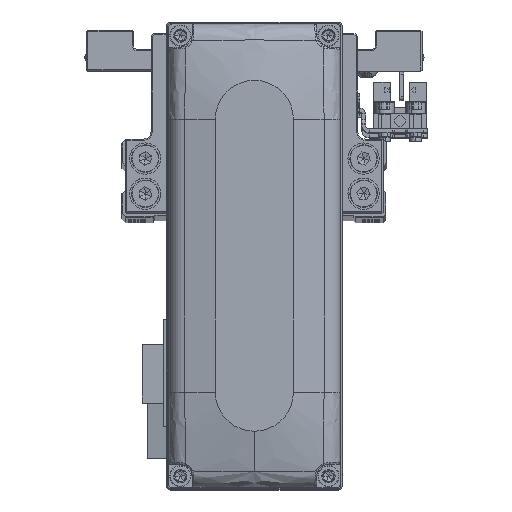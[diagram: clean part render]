
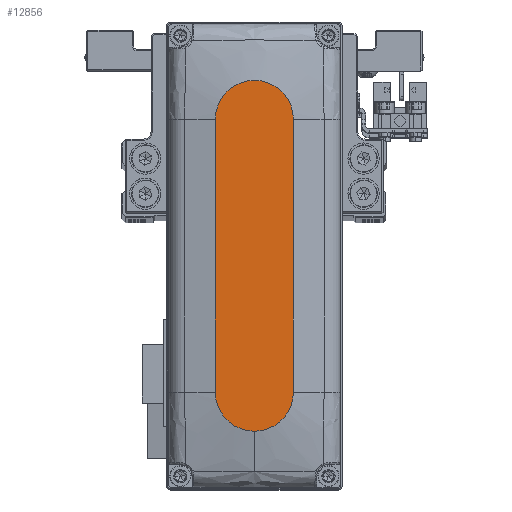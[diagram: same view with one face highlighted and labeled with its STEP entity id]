
A CAD part, top view. The second image highlights one B-rep face of the part: STEP entity #12856.
In plain terms, the highlighted planar face has unit normal (0, 0, 1).
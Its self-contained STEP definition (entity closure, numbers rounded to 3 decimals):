
#1269 = FACE_OUTER_BOUND ( 'NONE', #26594, .T. ) ;
#2183 = CIRCLE ( 'NONE', #25594, 10. ) ;
#2393 = DIRECTION ( 'NONE',  ( 1., 0., 0. ) ) ;
#2637 = VECTOR ( 'NONE', #34845, 1000. ) ;
#3140 = DIRECTION ( 'NONE',  ( 1., 0., 0. ) ) ;
#5332 = VECTOR ( 'NONE', #7332, 1000. ) ;
#5924 = CARTESIAN_POINT ( 'NONE',  ( 35., 0., 28. ) ) ;
#7332 = DIRECTION ( 'NONE',  ( -1., 0., 0. ) ) ;
#8295 = EDGE_CURVE ( 'NONE', #9153, #16793, #9304, .T. ) ;
#8922 = EDGE_CURVE ( 'NONE', #12140, #37000, #23281, .T. ) ;
#9029 = VERTEX_POINT ( 'NONE', #33304 ) ;
#9153 = VERTEX_POINT ( 'NONE', #24918 ) ;
#9261 = EDGE_CURVE ( 'NONE', #16793, #9029, #14722, .T. ) ;
#9304 = LINE ( 'NONE', #22079, #2637 ) ;
#10886 = DIRECTION ( 'NONE',  ( 1., 0., 0. ) ) ;
#12140 = VERTEX_POINT ( 'NONE', #41128 ) ;
#12856 = ADVANCED_FACE ( 'NONE', ( #1269 ), #14020, .T. ) ;
#14020 = PLANE ( 'NONE',  #29672 ) ;
#14722 = CIRCLE ( 'NONE', #38133, 10. ) ;
#16362 = ORIENTED_EDGE ( 'NONE', *, *, #8295, .T. ) ;
#16793 = VERTEX_POINT ( 'NONE', #33160 ) ;
#16795 = CIRCLE ( 'NONE', #40166, 10. ) ;
#18299 = CARTESIAN_POINT ( 'NONE',  ( -35., 0., 28. ) ) ;
#18707 = DIRECTION ( 'NONE',  ( 0., 0., 1. ) ) ;
#19048 = CARTESIAN_POINT ( 'NONE',  ( 35., 0., 28. ) ) ;
#22079 = CARTESIAN_POINT ( 'NONE',  ( -35., -10., 28. ) ) ;
#22173 = EDGE_CURVE ( 'NONE', #37000, #9153, #16795, .T. ) ;
#23281 = LINE ( 'NONE', #36050, #5332 ) ;
#23459 = EDGE_CURVE ( 'NONE', #9029, #12140, #2183, .T. ) ;
#24918 = CARTESIAN_POINT ( 'NONE',  ( -35., -10., 28. ) ) ;
#25594 = AXIS2_PLACEMENT_3D ( 'NONE', #5924, #18707, #31486 ) ;
#26594 = EDGE_LOOP ( 'NONE', ( #29726, #36707, #16362, #30507, #31514 ) ) ;
#26798 = CARTESIAN_POINT ( 'NONE',  ( 0., 0., 28. ) ) ;
#29672 = AXIS2_PLACEMENT_3D ( 'NONE', #26798, #39565, #10886 ) ;
#29726 = ORIENTED_EDGE ( 'NONE', *, *, #8922, .T. ) ;
#30507 = ORIENTED_EDGE ( 'NONE', *, *, #9261, .T. ) ;
#31084 = DIRECTION ( 'NONE',  ( 0., 0., 1. ) ) ;
#31486 = DIRECTION ( 'NONE',  ( 1., 0., 0. ) ) ;
#31514 = ORIENTED_EDGE ( 'NONE', *, *, #23459, .T. ) ;
#31831 = DIRECTION ( 'NONE',  ( 0., 0., 1. ) ) ;
#33160 = CARTESIAN_POINT ( 'NONE',  ( 35., -10., 28. ) ) ;
#33304 = CARTESIAN_POINT ( 'NONE',  ( 45., 0., 28. ) ) ;
#34845 = DIRECTION ( 'NONE',  ( 1., 0., 0. ) ) ;
#35144 = CARTESIAN_POINT ( 'NONE',  ( -35., 10., 28. ) ) ;
#36050 = CARTESIAN_POINT ( 'NONE',  ( -35., 10., 28. ) ) ;
#36707 = ORIENTED_EDGE ( 'NONE', *, *, #22173, .T. ) ;
#37000 = VERTEX_POINT ( 'NONE', #35144 ) ;
#38133 = AXIS2_PLACEMENT_3D ( 'NONE', #19048, #31831, #3140 ) ;
#39565 = DIRECTION ( 'NONE',  ( 0., 0., 1. ) ) ;
#40166 = AXIS2_PLACEMENT_3D ( 'NONE', #18299, #31084, #2393 ) ;
#41128 = CARTESIAN_POINT ( 'NONE',  ( 35., 10., 28. ) ) ;
